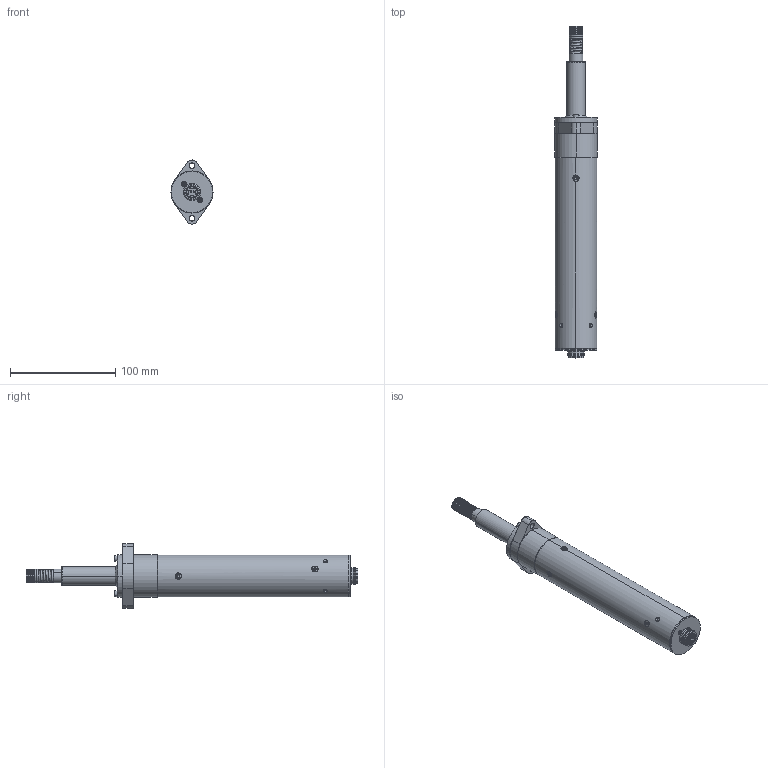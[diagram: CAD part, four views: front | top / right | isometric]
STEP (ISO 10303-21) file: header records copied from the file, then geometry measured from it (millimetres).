
FILE_DESCRIPTION (( 'STEP AP214' ), '1' );
FILE_NAME ('KDS MT1.5 CA FN 175115FN.STEP', '2021-08-05T09:39:40', ( '' ), ( '' ), 'SwSTEP 2.0', 'SolidWorks 2020', '' );
FILE_SCHEMA (( 'AUTOMOTIVE_DESIGN' ));
Length unit declared in the file: millimetre
Products named in the file (1): KDS MT1.5 CA FN 175115FN
Bounding box: 40 x 315.9 x 60.98 mm (x, y, z)
Surface area: 51338.7 mm2 (no closed solid volume)
Topology: 0 solids, 50 shells, 432 faces, 1300 edges, 875 vertices
Faces by surface type: cylinder 175, cone 107, plane 86, torus 60, bspline 4
Entity records: 23704 total; most frequent: CARTESIAN_POINT 7238, DIRECTION 2701, ORIENTED_EDGE 2054, EDGE_CURVE 1278, AXIS2_PLACEMENT_3D 1121, VERTEX_POINT 875, CIRCLE 692, EDGE_LOOP 507
